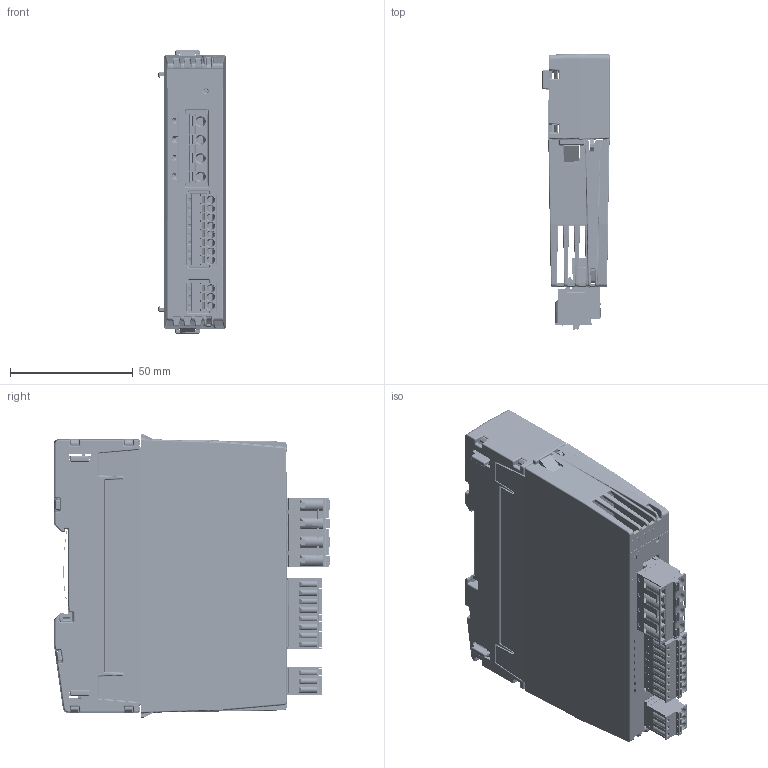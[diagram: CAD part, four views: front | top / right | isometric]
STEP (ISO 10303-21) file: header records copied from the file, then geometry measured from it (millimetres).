
FILE_DESCRIPTION(/* description */ (''),/* implementation_level */ '2;1');
FILE_NAME(/* name */ 'C:\Users\Public\Documents\Autodesk\Inventor 2023\PM03C_Simplified+BackBB21A.stp',/* time_stamp */ '2024-10-18T22:12:28+02:00',/* author */ ('shoma'),/* organization */ (''),/* preprocessor_version */ 'ST-DEVELOPER v19',/* originating_system */ 'Autodesk Inventor 2023',/* authorisation */ '');
FILE_SCHEMA (('AUTOMOTIVE_DESIGN { 1 0 10303 214 3 1 1 }'));
Products named in the file (1): PM03C_Simplified+BackBB21A
Bounding box: 27.4 x 112.6 x 115.5 mm (x, y, z)
Volume: 135794.3 mm3; surface area: 89497.2 mm2
Topology: 7 solids, 42 shells, 8463 faces, 22729 edges, 14309 vertices
Faces by surface type: plane 5468, cylinder 2072, bspline 575, sphere 163, cone 139, torus 46
Full cylindrical faces by diameter (mm): 0.296 x2, 0.3 x36, 0.434 x1, 0.457 x2, 0.7 x36, 0.8 x6, 0.85 x24, 0.9 x8, 1.17 x11, 1.25 x11, 1.3 x11, 1.4 x8, 1.5 x4, 1.6 x9, 2.35 x2, 2.5 x1, 2.8 x3, 3 x5, 3.1 x11, 3.25 x2, 4 x4
Entity records: 287260 total; most frequent: CARTESIAN_POINT 66929, ORIENTED_EDGE 45112, DIRECTION 42665, EDGE_CURVE 22556, LINE 16489, VECTOR 16489, VERTEX_POINT 14305, AXIS2_PLACEMENT_3D 13088
